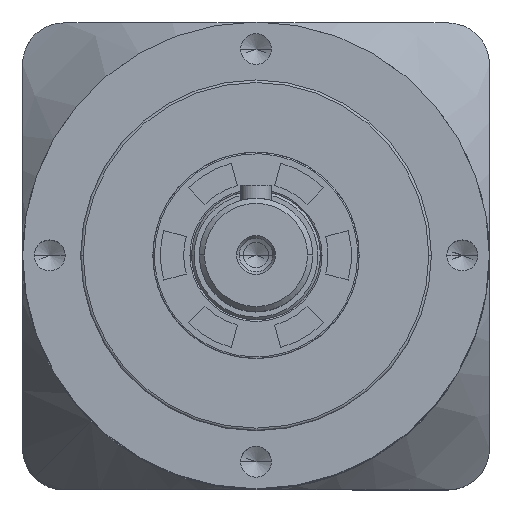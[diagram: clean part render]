
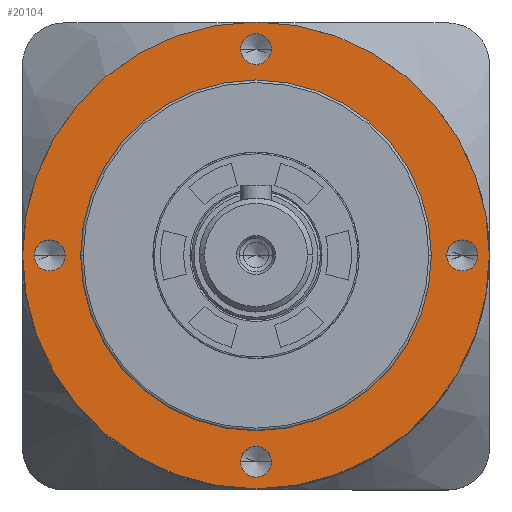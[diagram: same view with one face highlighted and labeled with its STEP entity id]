
A CAD part, top view. The second image highlights one B-rep face of the part: STEP entity #20104.
In plain terms, the highlighted planar face has unit normal (0, 0, 1).
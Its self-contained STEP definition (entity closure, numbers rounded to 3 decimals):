
#26 = DIRECTION ( 'NONE',  ( 1., 0., 0. ) ) ;
#46 = CARTESIAN_POINT ( 'NONE',  ( -45.25, 0., 18.1 ) ) ;
#448 = CARTESIAN_POINT ( 'NONE',  ( 40., 0., 18.1 ) ) ;
#734 = CIRCLE ( 'NONE', #29307, 45.25 ) ;
#1006 = CARTESIAN_POINT ( 'NONE',  ( -3., 40., 18.1 ) ) ;
#1271 = VERTEX_POINT ( 'NONE', #29450 ) ;
#1319 = EDGE_CURVE ( 'NONE', #19203, #18846, #7102, .T. ) ;
#1511 = CIRCLE ( 'NONE', #3563, 34. ) ;
#1889 = ORIENTED_EDGE ( 'NONE', *, *, #1319, .F. ) ;
#2023 = EDGE_LOOP ( 'NONE', ( #5161, #22544 ) ) ;
#2097 = EDGE_LOOP ( 'NONE', ( #27456, #26550 ) ) ;
#2406 = AXIS2_PLACEMENT_3D ( 'NONE', #21230, #6941, #4656 ) ;
#2408 = AXIS2_PLACEMENT_3D ( 'NONE', #17818, #5972, #8036 ) ;
#2902 = CIRCLE ( 'NONE', #2406, 3. ) ;
#2923 = ORIENTED_EDGE ( 'NONE', *, *, #18271, .T. ) ;
#3481 = VERTEX_POINT ( 'NONE', #1006 ) ;
#3563 = AXIS2_PLACEMENT_3D ( 'NONE', #4433, #6802, #23402 ) ;
#3583 = FACE_BOUND ( 'NONE', #2097, .T. ) ;
#3599 = CARTESIAN_POINT ( 'NONE',  ( -37., 0., 18.1 ) ) ;
#3609 = AXIS2_PLACEMENT_3D ( 'NONE', #448, #10243, #29031 ) ;
#4043 = ORIENTED_EDGE ( 'NONE', *, *, #26225, .F. ) ;
#4082 = CARTESIAN_POINT ( 'NONE',  ( 45.25, 0., 18.1 ) ) ;
#4084 = DIRECTION ( 'NONE',  ( 1., 0., 0. ) ) ;
#4433 = CARTESIAN_POINT ( 'NONE',  ( 0., 0., 18.1 ) ) ;
#4656 = DIRECTION ( 'NONE',  ( 1., 0., 0. ) ) ;
#4769 = CARTESIAN_POINT ( 'NONE',  ( 3., -40., 18.1 ) ) ;
#5065 = FACE_BOUND ( 'NONE', #2023, .T. ) ;
#5161 = ORIENTED_EDGE ( 'NONE', *, *, #9797, .F. ) ;
#5496 = CARTESIAN_POINT ( 'NONE',  ( 37., 0., 18.1 ) ) ;
#5654 = CARTESIAN_POINT ( 'NONE',  ( -40., 0., 18.1 ) ) ;
#5851 = AXIS2_PLACEMENT_3D ( 'NONE', #13864, #28391, #6716 ) ;
#5944 = VERTEX_POINT ( 'NONE', #21878 ) ;
#5972 = DIRECTION ( 'NONE',  ( 0., 0., 1. ) ) ;
#6236 = CIRCLE ( 'NONE', #3609, 3. ) ;
#6567 = FACE_BOUND ( 'NONE', #9883, .T. ) ;
#6716 = DIRECTION ( 'NONE',  ( 1., 0., 0. ) ) ;
#6802 = DIRECTION ( 'NONE',  ( 0., 0., 1. ) ) ;
#6941 = DIRECTION ( 'NONE',  ( 0., 0., 1. ) ) ;
#7102 = CIRCLE ( 'NONE', #5851, 3. ) ;
#7293 = ORIENTED_EDGE ( 'NONE', *, *, #10023, .T. ) ;
#7429 = DIRECTION ( 'NONE',  ( 0., 0., 1. ) ) ;
#7784 = VERTEX_POINT ( 'NONE', #25174 ) ;
#7790 = AXIS2_PLACEMENT_3D ( 'NONE', #5654, #17828, #10448 ) ;
#8036 = DIRECTION ( 'NONE',  ( 1., 0., 0. ) ) ;
#8075 = ORIENTED_EDGE ( 'NONE', *, *, #12510, .F. ) ;
#8225 = DIRECTION ( 'NONE',  ( 1., 0., 0. ) ) ;
#8842 = CIRCLE ( 'NONE', #2408, 45.25 ) ;
#9797 = EDGE_CURVE ( 'NONE', #29842, #7784, #1511, .T. ) ;
#9883 = EDGE_LOOP ( 'NONE', ( #1889, #21450 ) ) ;
#9926 = EDGE_CURVE ( 'NONE', #3481, #1271, #18983, .T. ) ;
#10001 = DIRECTION ( 'NONE',  ( 0., 0., 1. ) ) ;
#10023 = EDGE_CURVE ( 'NONE', #20841, #16984, #734, .T. ) ;
#10243 = DIRECTION ( 'NONE',  ( 0., 0., 1. ) ) ;
#10448 = DIRECTION ( 'NONE',  ( 1., 0., 0. ) ) ;
#10736 = CARTESIAN_POINT ( 'NONE',  ( 0., -40., 18.1 ) ) ;
#11450 = CARTESIAN_POINT ( 'NONE',  ( -43., 0., 18.1 ) ) ;
#12505 = CIRCLE ( 'NONE', #18773, 34. ) ;
#12510 = EDGE_CURVE ( 'NONE', #12530, #5944, #2902, .T. ) ;
#12530 = VERTEX_POINT ( 'NONE', #4769 ) ;
#13864 = CARTESIAN_POINT ( 'NONE',  ( 40., 0., 18.1 ) ) ;
#14067 = DIRECTION ( 'NONE',  ( 0., 0., 1. ) ) ;
#15279 = CIRCLE ( 'NONE', #7790, 3. ) ;
#16378 = CARTESIAN_POINT ( 'NONE',  ( 0., 40., 18.1 ) ) ;
#16467 = DIRECTION ( 'NONE',  ( 0., 0., 1. ) ) ;
#16773 = DIRECTION ( 'NONE',  ( 1., 0., 0. ) ) ;
#16984 = VERTEX_POINT ( 'NONE', #46 ) ;
#17145 = EDGE_CURVE ( 'NONE', #18846, #19203, #6236, .T. ) ;
#17257 = EDGE_CURVE ( 'NONE', #29942, #26611, #15279, .T. ) ;
#17358 = EDGE_LOOP ( 'NONE', ( #8075, #24393 ) ) ;
#17685 = CARTESIAN_POINT ( 'NONE',  ( -40., 0., 18.1 ) ) ;
#17752 = EDGE_LOOP ( 'NONE', ( #7293, #2923 ) ) ;
#17818 = CARTESIAN_POINT ( 'NONE',  ( 0., 0., 18.1 ) ) ;
#17828 = DIRECTION ( 'NONE',  ( 0., 0., 1. ) ) ;
#18167 = CARTESIAN_POINT ( 'NONE',  ( 43., 0., 18.1 ) ) ;
#18185 = AXIS2_PLACEMENT_3D ( 'NONE', #17685, #10001, #8225 ) ;
#18271 = EDGE_CURVE ( 'NONE', #16984, #20841, #8842, .T. ) ;
#18367 = EDGE_LOOP ( 'NONE', ( #21456, #4043 ) ) ;
#18409 = DIRECTION ( 'NONE',  ( 0., 0., 1. ) ) ;
#18773 = AXIS2_PLACEMENT_3D ( 'NONE', #25836, #18409, #4084 ) ;
#18846 = VERTEX_POINT ( 'NONE', #5496 ) ;
#18983 = CIRCLE ( 'NONE', #19088, 3. ) ;
#19088 = AXIS2_PLACEMENT_3D ( 'NONE', #16378, #16467, #16773 ) ;
#19203 = VERTEX_POINT ( 'NONE', #18167 ) ;
#19303 = CARTESIAN_POINT ( 'NONE',  ( 0., 40., 18.1 ) ) ;
#20104 = ADVANCED_FACE ( 'NONE', ( #6567, #27082, #24451, #3583, #5065, #23352 ), #24299, .T. ) ;
#20211 = DIRECTION ( 'NONE',  ( 1., 0., 0. ) ) ;
#20599 = EDGE_CURVE ( 'NONE', #5944, #12530, #21101, .T. ) ;
#20841 = VERTEX_POINT ( 'NONE', #4082 ) ;
#21101 = CIRCLE ( 'NONE', #23817, 3. ) ;
#21230 = CARTESIAN_POINT ( 'NONE',  ( 0., -40., 18.1 ) ) ;
#21450 = ORIENTED_EDGE ( 'NONE', *, *, #17145, .F. ) ;
#21456 = ORIENTED_EDGE ( 'NONE', *, *, #17257, .F. ) ;
#21499 = CIRCLE ( 'NONE', #18185, 3. ) ;
#21878 = CARTESIAN_POINT ( 'NONE',  ( -3., -40., 18.1 ) ) ;
#22144 = DIRECTION ( 'NONE',  ( 0., 0., 1. ) ) ;
#22544 = ORIENTED_EDGE ( 'NONE', *, *, #26563, .F. ) ;
#23352 = FACE_OUTER_BOUND ( 'NONE', #17752, .T. ) ;
#23402 = DIRECTION ( 'NONE',  ( 1., 0., 0. ) ) ;
#23817 = AXIS2_PLACEMENT_3D ( 'NONE', #10736, #25342, #20211 ) ;
#24299 = PLANE ( 'NONE',  #26586 ) ;
#24393 = ORIENTED_EDGE ( 'NONE', *, *, #20599, .F. ) ;
#24451 = FACE_BOUND ( 'NONE', #18367, .T. ) ;
#24551 = CARTESIAN_POINT ( 'NONE',  ( -34., 0., 18.1 ) ) ;
#24963 = DIRECTION ( 'NONE',  ( 1., 0., 0. ) ) ;
#24973 = EDGE_CURVE ( 'NONE', #1271, #3481, #26648, .T. ) ;
#25174 = CARTESIAN_POINT ( 'NONE',  ( 34., 0., 18.1 ) ) ;
#25342 = DIRECTION ( 'NONE',  ( 0., 0., 1. ) ) ;
#25836 = CARTESIAN_POINT ( 'NONE',  ( 0., 0., 18.1 ) ) ;
#26177 = CARTESIAN_POINT ( 'NONE',  ( 0., 0., 18.1 ) ) ;
#26225 = EDGE_CURVE ( 'NONE', #26611, #29942, #21499, .T. ) ;
#26550 = ORIENTED_EDGE ( 'NONE', *, *, #9926, .F. ) ;
#26563 = EDGE_CURVE ( 'NONE', #7784, #29842, #12505, .T. ) ;
#26586 = AXIS2_PLACEMENT_3D ( 'NONE', #26684, #22144, #24963 ) ;
#26611 = VERTEX_POINT ( 'NONE', #11450 ) ;
#26648 = CIRCLE ( 'NONE', #30786, 3. ) ;
#26684 = CARTESIAN_POINT ( 'NONE',  ( 0., 0., 18.1 ) ) ;
#27082 = FACE_BOUND ( 'NONE', #17358, .T. ) ;
#27456 = ORIENTED_EDGE ( 'NONE', *, *, #24973, .F. ) ;
#28391 = DIRECTION ( 'NONE',  ( 0., 0., 1. ) ) ;
#28711 = DIRECTION ( 'NONE',  ( 1., 0., 0. ) ) ;
#29031 = DIRECTION ( 'NONE',  ( 1., 0., 0. ) ) ;
#29307 = AXIS2_PLACEMENT_3D ( 'NONE', #26177, #14067, #26 ) ;
#29450 = CARTESIAN_POINT ( 'NONE',  ( 3., 40., 18.1 ) ) ;
#29842 = VERTEX_POINT ( 'NONE', #24551 ) ;
#29942 = VERTEX_POINT ( 'NONE', #3599 ) ;
#30786 = AXIS2_PLACEMENT_3D ( 'NONE', #19303, #7429, #28711 ) ;
